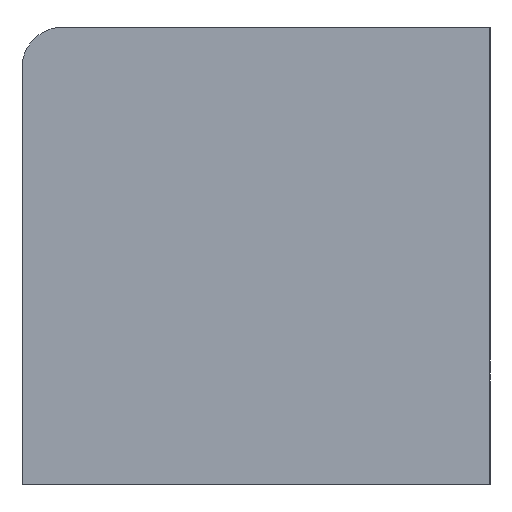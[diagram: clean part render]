
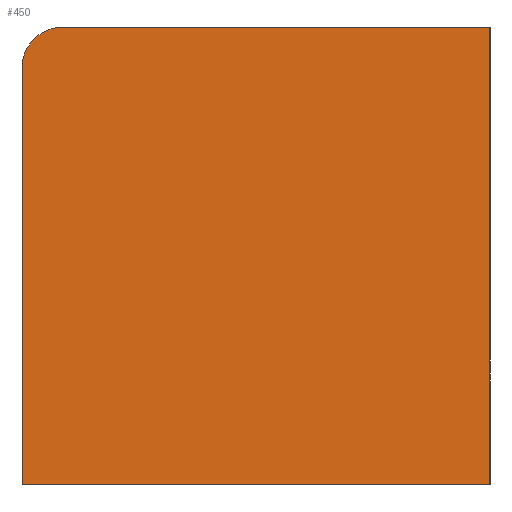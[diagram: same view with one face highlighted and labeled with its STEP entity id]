
A CAD part, left-side view. The second image highlights one B-rep face of the part: STEP entity #450.
In plain terms, the highlighted planar face has unit normal (-1, 0, 0).
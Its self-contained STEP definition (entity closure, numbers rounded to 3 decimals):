
#233=CARTESIAN_POINT('Vertex',(0.,0.,90.)) ;
#236=CARTESIAN_POINT('Line Origine',(0.,0.,45.)) ;
#240=CARTESIAN_POINT('Vertex',(0.,0.,0.)) ;
#329=CARTESIAN_POINT('Vertex',(0.,92.,0.)) ;
#332=CARTESIAN_POINT('Line Origine',(0.,92.,41.)) ;
#336=CARTESIAN_POINT('Vertex',(0.,92.,82.)) ;
#396=CARTESIAN_POINT('Line Origine',(0.,46.,0.)) ;
#414=CARTESIAN_POINT('Axis2P3D Location',(0.,84.,82.)) ;
#418=CARTESIAN_POINT('Vertex',(0.,84.,90.)) ;
#433=CARTESIAN_POINT('Axis2P3D Location',(0.,92.,0.)) ;
#438=CARTESIAN_POINT('Line Origine',(0.,42.,90.)) ;
#237=DIRECTION('Vector Direction',(0.,0.,1.)) ;
#333=DIRECTION('Vector Direction',(0.,0.,1.)) ;
#397=DIRECTION('Vector Direction',(0.,-1.,0.)) ;
#415=DIRECTION('Axis2P3D Direction',(-1.,0.,0.)) ;
#434=DIRECTION('Axis2P3D Direction',(-1.,0.,0.)) ;
#435=DIRECTION('Axis2P3D XDirection',(0.,-1.,0.)) ;
#439=DIRECTION('Vector Direction',(0.,1.,0.)) ;
#416=AXIS2_PLACEMENT_3D('Circle Axis2P3D',#414,#415,$) ;
#436=AXIS2_PLACEMENT_3D('Plane Axis2P3D',#433,#434,#435) ;
#444=ORIENTED_EDGE('',*,*,#242,.T.) ;
#445=ORIENTED_EDGE('',*,*,#442,.T.) ;
#446=ORIENTED_EDGE('',*,*,#420,.T.) ;
#447=ORIENTED_EDGE('',*,*,#338,.F.) ;
#448=ORIENTED_EDGE('',*,*,#400,.T.) ;
#238=VECTOR('Line Direction',#237,1.) ;
#334=VECTOR('Line Direction',#333,1.) ;
#398=VECTOR('Line Direction',#397,1.) ;
#440=VECTOR('Line Direction',#439,1.) ;
#450=ADVANCED_FACE('PartBody',(#449),#437,.T.) ;
#417=CIRCLE('generated circle',#416,8.) ;
#242=EDGE_CURVE('',#241,#234,#239,.T.) ;
#338=EDGE_CURVE('',#330,#337,#335,.T.) ;
#400=EDGE_CURVE('',#330,#241,#399,.T.) ;
#420=EDGE_CURVE('',#419,#337,#417,.T.) ;
#442=EDGE_CURVE('',#234,#419,#441,.T.) ;
#443=EDGE_LOOP('',(#444,#445,#446,#447,#448)) ;
#449=FACE_OUTER_BOUND('',#443,.T.) ;
#239=LINE('Line',#236,#238) ;
#335=LINE('Line',#332,#334) ;
#399=LINE('Line',#396,#398) ;
#441=LINE('Line',#438,#440) ;
#437=PLANE('',#436) ;
#234=VERTEX_POINT('',#233) ;
#241=VERTEX_POINT('',#240) ;
#330=VERTEX_POINT('',#329) ;
#337=VERTEX_POINT('',#336) ;
#419=VERTEX_POINT('',#418) ;
